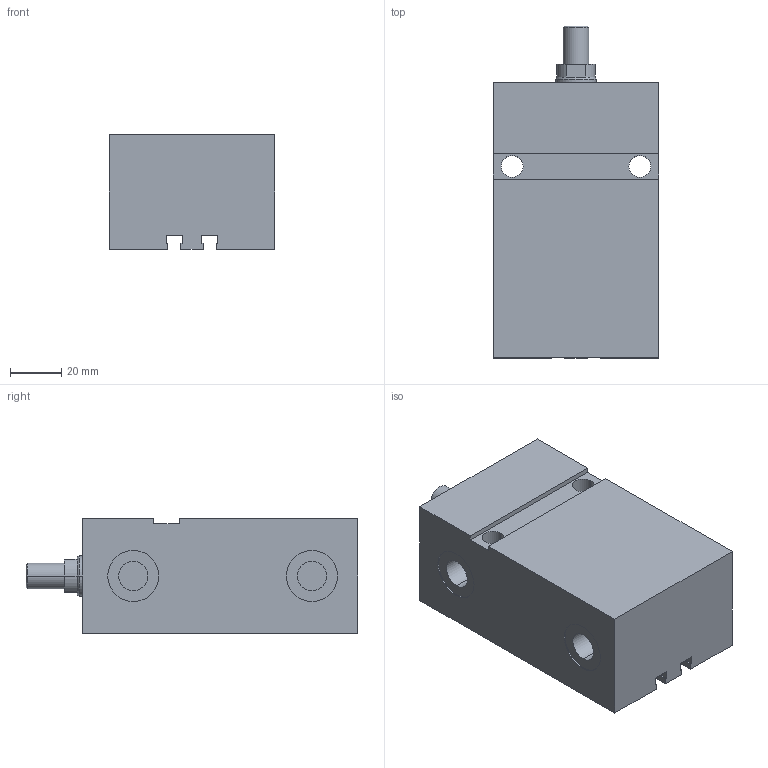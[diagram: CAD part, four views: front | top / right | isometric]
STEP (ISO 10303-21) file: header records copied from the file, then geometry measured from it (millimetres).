
FILE_DESCRIPTION (( 'STEP AP203' ), '1' );
FILE_NAME ('GERMA_Blockzylinder_702-025-050-A.STEP', '2016-08-01T17:02:28', ( '' ), ( '' ), 'SwSTEP 2.0', 'SolidWorks 2015', '' );
FILE_SCHEMA (( 'CONFIG_CONTROL_DESIGN' ));
Length unit declared in the file: millimetre
Products named in the file (3): Kolben_MT 70x-025_Kolben_MT DU.25-Hub50-AG; GH-700-025_GH-702-025-050; GERMA_Blockzylinder_702-025-050-A
Assembly tree (2 placements, depth 2):
  GERMA_Blockzylinder_702-025-050-A
    GH-700-025_GH-702-025-050
    Kolben_MT 70x-025_Kolben_MT DU.25-Hub50-AG
Bounding box: 65 x 130 x 45 mm (x, y, z)
Volume: 287090.5 mm3; surface area: 50097.6 mm2
Topology: 2 solids, 2 shells, 88 faces, 204 edges, 129 vertices
Faces by surface type: plane 43, cylinder 33, cone 12
Entity records: 2790 total; most frequent: DIRECTION 463, CARTESIAN_POINT 422, ORIENTED_EDGE 400, EDGE_CURVE 200, AXIS2_PLACEMENT_3D 170, VERTEX_POINT 129, LINE 123, VECTOR 123
